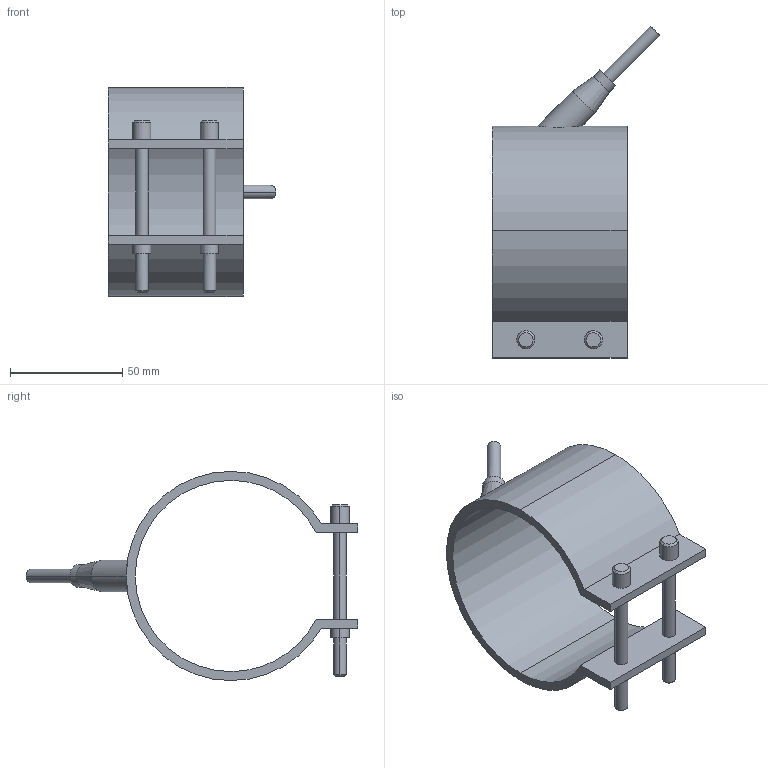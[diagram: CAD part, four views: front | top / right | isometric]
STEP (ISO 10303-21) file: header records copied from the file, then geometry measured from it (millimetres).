
FILE_DESCRIPTION(('CATIA V5 STEP Exchange'),'2;1');
FILE_NAME('C:\Users\Utente\Desktop\IO LAVORO\3D X SITO CF\X SITO\PLASTICA\RF1\29085060.stp','2021-03-29T18:02:25+00:00',('none'),('none'),'CATIA Version 5 Release 20 GA (IN-10)','CATIA V5 STEP AP203','none');
FILE_SCHEMA(('CONFIG_CONTROL_DESIGN'));
Length unit declared in the file: millimetre
Products named in the file (1): 29085060
Bounding box: 74.55 x 147.55 x 93 mm (x, y, z)
Volume: 73706.5 mm3; surface area: 39196 mm2
Topology: 1 solids, 1 shells, 54 faces, 123 edges, 79 vertices
Faces by surface type: cylinder 28, plane 16, cone 10
Entity records: 1746 total; most frequent: CARTESIAN_POINT 518, ORIENTED_EDGE 246, DIRECTION 211, EDGE_CURVE 123, AXIS2_PLACEMENT_3D 104, VERTEX_POINT 79, EDGE_LOOP 66, VECTOR 56
